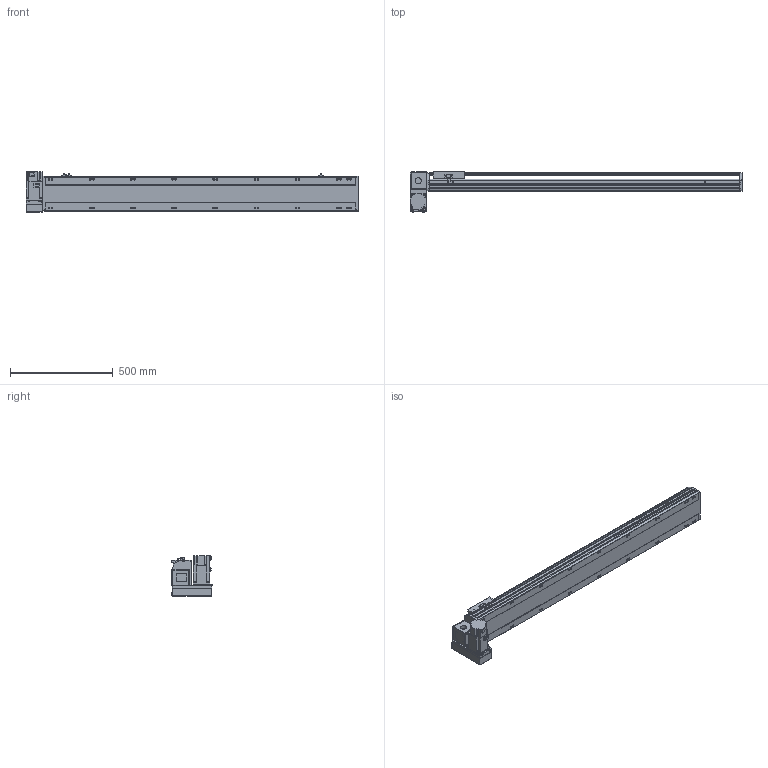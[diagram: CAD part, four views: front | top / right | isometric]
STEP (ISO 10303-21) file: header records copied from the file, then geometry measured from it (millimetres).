
FILE_DESCRIPTION( ( 'STEP AP214' ), '1' );
FILE_NAME( 'x:/temp/worker_3/temp/exporttempdir_5412_21_EyhCV/format_0/PBS170-P40-S1250-LD-T75-C1-N(0).stp', '2022-06-07T07:53:23', ( 'License CC BY-ND 4.0' ), ( 'CADENAS' ), ' ', 'PARTsolutions', ' ' );
FILE_SCHEMA( ( 'AUTOMOTIVE_DESIGN { 1 0 10303 214 1 1 1 1 }' ) );
Length unit declared in the file: millimetre
Products named in the file (7): PBS170-P40-S1250-LD-T75-C1-N(0); _PBS170-S1250()_body; _PBS170T-LD_motors; _T75-p1; _PBS170_sliser; _PBS170_plant; _PBS170_sensor
Assembly tree (8 placements, depth 2):
  PBS170-P40-S1250-LD-T75-C1-N(0)
    _PBS170-S1250()_body
    _PBS170T-LD_motors
    _T75-p1
    _PBS170_sliser
    _PBS170_plant
    _PBS170_sensor  x3
Bounding box: 1613 x 201 x 197.3 mm (x, y, z)
Volume: 12769007.5 mm3; surface area: 1656160.5 mm2
Topology: 8 solids, 8 shells, 1098 faces, 2915 edges, 1900 vertices
Faces by surface type: plane 693, cylinder 347, cone 48, sphere 8, torus 2
Full cylindrical faces by diameter (mm): 3.242 x4, 4 x2, 4.4 x4, 4.5 x6, 4.917 x4, 6 x9, 6.647 x26, 7 x2, 7.5 x4, 8 x8, 8.5 x18, 10 x4, 10.5 x18, 11 x2, 30 x2, 40 x1, 70 x1
Entity records: 40382 total; most frequent: CARTESIAN_POINT 6389, DIRECTION 5370, ORIENTED_EDGE 5088, EDGE_CURVE 2544, AXIS2_PLACEMENT_3D 1867, VERTEX_POINT 1754, LINE 1636, VECTOR 1636
